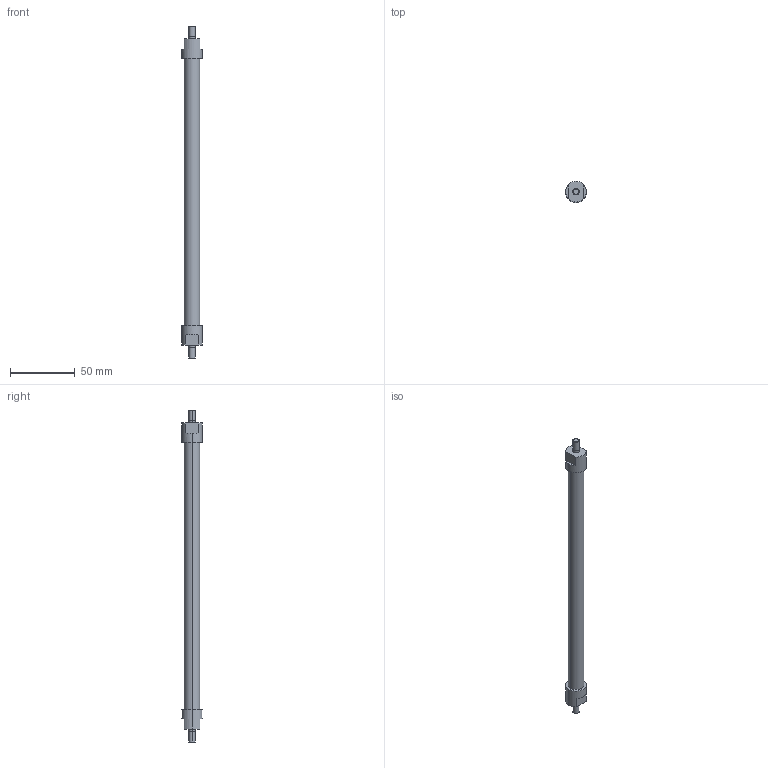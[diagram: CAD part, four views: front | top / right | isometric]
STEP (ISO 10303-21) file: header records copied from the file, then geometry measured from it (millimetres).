
FILE_DESCRIPTION(('STEP AP214'),'1');
FILE_NAME('ETT-R025N245.stp','2015-02-04T08:18:48',(' '),(' '),'Spatial InterOp 3D',' ',' ');
FILE_SCHEMA(('automotive_design'));
Length unit declared in the file: metre
Products named in the file (3): 1; 2; 3
Bounding box: 16 x 16 x 256 mm (x, y, z)
Volume: 29258.4 mm3; surface area: 10355 mm2
Topology: 1 solids, 7 shells, 30 faces, 81 edges, 63 vertices
Faces by surface type: plane 16, cylinder 14
Entity records: 1295 total; most frequent: DIRECTION 194, CARTESIAN_POINT 177, ORIENTED_EDGE 138, EDGE_CURVE 81, AXIS2_PLACEMENT_3D 80, VERTEX_POINT 63, CIRCLE 47, EDGE_LOOP 36
